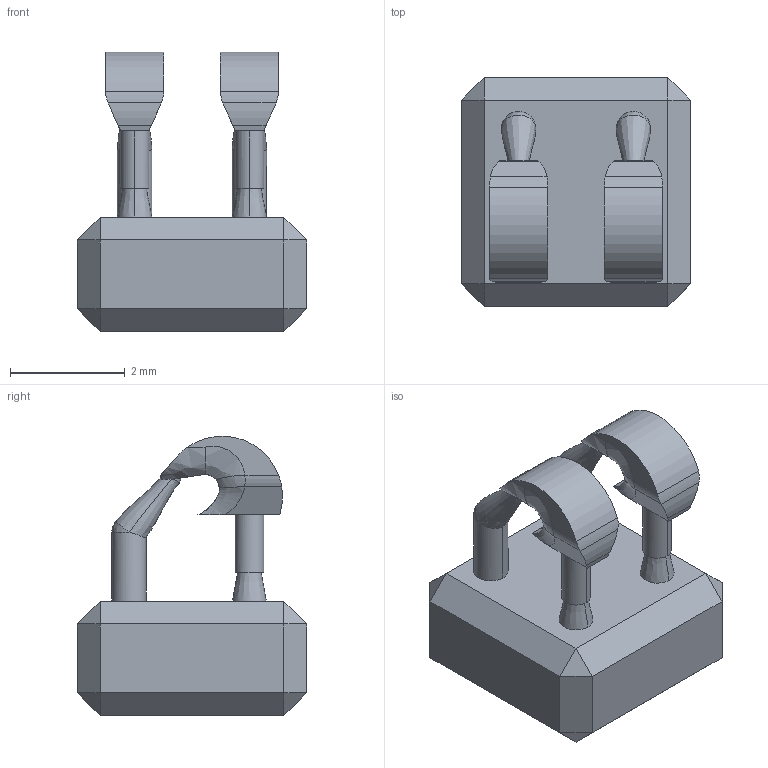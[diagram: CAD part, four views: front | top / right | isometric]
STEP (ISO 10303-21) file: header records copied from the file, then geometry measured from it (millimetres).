
FILE_DESCRIPTION(/* description */ (''),/* implementation_level */ '2;1');
FILE_NAME(/* name */ 'F6F-XC~3',/* time_stamp */ '2021-04-27T22:06:38+02:00',/* author */ (''),/* organization */ (''),/* preprocessor_version */ 'ST-DEVELOPER v16.5',/* originating_system */ '',/* authorisation */ '');
FILE_SCHEMA (('CONFIG_CONTROL_DESIGN'));
Length unit declared in the file: millimetre
Products named in the file (1): Document
Bounding box: 4 x 4 x 4.87 mm (x, y, z)
Volume: 33.9 mm3; surface area: 82.7 mm2
Topology: 1 solids, 1 shells, 104 faces, 254 edges, 146 vertices
Faces by surface type: bspline 42, plane 38, cylinder 24
Entity records: 5576 total; most frequent: CARTESIAN_POINT 3898, ORIENTED_EDGE 492, EDGE_CURVE 246, B_SPLINE_CURVE_WITH_KNOTS 172, VERTEX_POINT 146, EDGE_LOOP 110, ADVANCED_FACE 104, FACE_OUTER_BOUND 104
